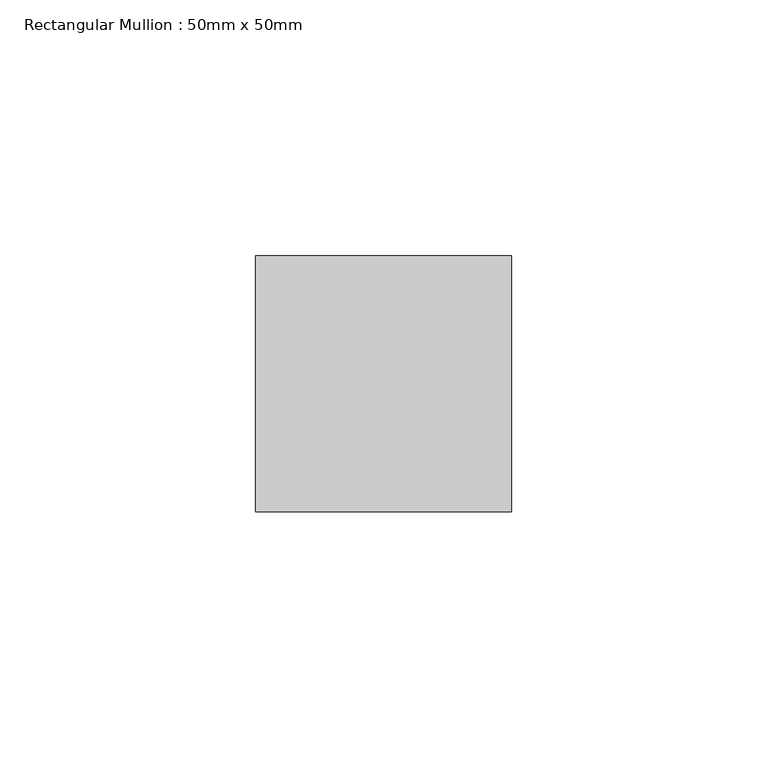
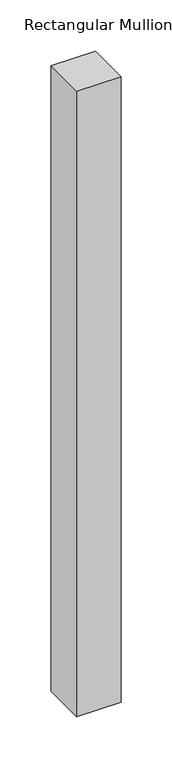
"""IFC4 building model written with IfcOpenShell, lengths in millimetres: member geometry, Rectangular Mullion : 50mm x 50mm."""

from ifc_helpers import new_model, si_unit, frame, origin, place, context, project, spatial, polyline, outline, extrude, source, transform, mapped, element, save


def rectangular_mullion_50mm_x_50mm_d7c1f540(model_context):
    return source(origin(), model_context, "Body", "SweptSolid", [
        extrude(outline(polyline([(25.0, 25.0), (25.0, -25.0), (-25.0, -25.0), (-25.0, 25.0), (25.0, 25.0)])), frame((0.0, 0.0, -745.6466905), z_axis=(0.0, 0.0, 1.0), x_axis=(1.0, 0.0, 0.0)), (0.0, 0.0, 1.0), 745.6466905),
    ])


if __name__ == "__main__":
    model = new_model("IFC4")
    model_context = context("Model", 3, world=origin())
    ifc_project = project(units=[si_unit("LENGTHUNIT", "METRE", prefix="MILLI")], contexts=[model_context])
    site = spatial("IfcSite", under=ifc_project)
    building = spatial("IfcBuilding", under=site)
    placement = place(None, origin())
    rectangular_mullion_50mm_x_50mm_shape = rectangular_mullion_50mm_x_50mm_d7c1f540(model_context)
    element("IfcMember", 1, ObjectType="Rectangular Mullion : 50mm x 50mm", at=placement, inside=building, context=model_context, shape_type="MappedRepresentation", body=[
        mapped(rectangular_mullion_50mm_x_50mm_shape, transform((0.0, 0.0, 0.0), x_axis=(1.0, 0.0, 0.0), y_axis=(0.0, 1.0, 0.0), z_axis=(0.0, 0.0, 1.0))),
    ])
    save(model, "model.ifc")
